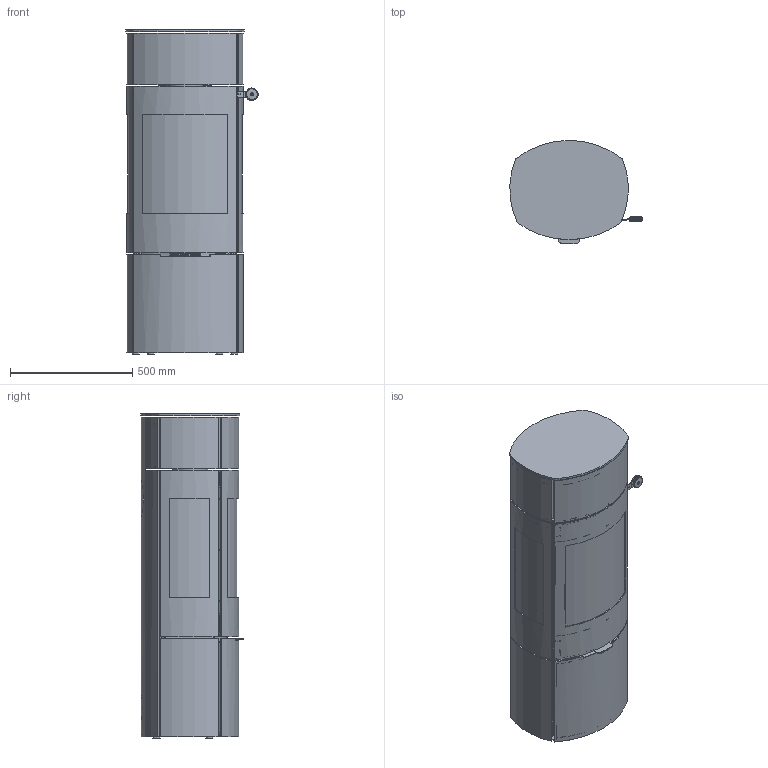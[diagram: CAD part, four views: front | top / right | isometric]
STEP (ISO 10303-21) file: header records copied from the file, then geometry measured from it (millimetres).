
FILE_DESCRIPTION(/* description */ (''),/* implementation_level */ '2;1');
FILE_NAME(/* name */ '14-0531 Caro 130 Manuel Classic Sideglas.stp',/* time_stamp */ '2023-11-07T12:52:52+01:00',/* author */ ('ksj'),/* organization */ (''),/* preprocessor_version */ 'ST-DEVELOPER v19.2',/* originating_system */ 'Autodesk Inventor 2023',/* authorisation */ '');
FILE_SCHEMA (('AUTOMOTIVE_DESIGN { 1 0 10303 214 3 1 1 }'));
Products named in the file (1): 14-0531 Caro 130 G Classic
Bounding box: 541.84 x 421.74 x 1329 mm (x, y, z)
Volume: 16192529.4 mm3; surface area: 8949838.8 mm2
Topology: 68 solids, 68 shells, 4148 faces, 11271 edges, 7228 vertices
Faces by surface type: plane 2572, cylinder 1442, bspline 105, torus 25, cone 2, sphere 2
Full cylindrical faces by diameter (mm): 10 x4, 12 x2, 16.1 x2, 18 x1, 20 x3, 25 x4, 33.8 x2, 160 x1, 200 x1
Entity records: 139140 total; most frequent: CARTESIAN_POINT 27991, ORIENTED_EDGE 22538, DIRECTION 21959, EDGE_CURVE 11269, LINE 7891, VECTOR 7891, VERTEX_POINT 7224, AXIS2_PLACEMENT_3D 7034
